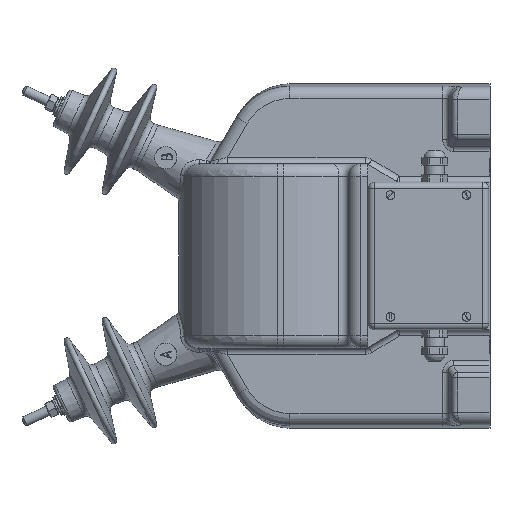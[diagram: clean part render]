
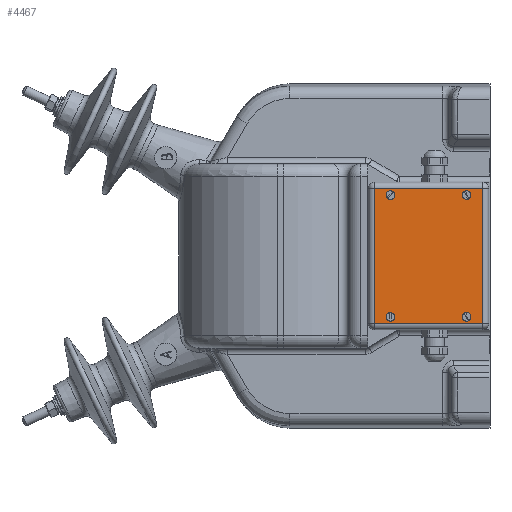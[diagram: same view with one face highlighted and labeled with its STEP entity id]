
A CAD part, left-side view. The second image highlights one B-rep face of the part: STEP entity #4467.
In plain terms, the highlighted planar face has unit normal (-1, 0, 0) as drawn and (0, 0, 1) by its records, which use the part's own axes.
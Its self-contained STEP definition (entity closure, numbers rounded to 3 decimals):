
#4467=ADVANCED_FACE('',(#12348,#12350,#12352,#12354,#12356),#12358,.T.);
#12348=FACE_BOUND('',#12349,.T.);
#12349=EDGE_LOOP('',(#14959,#14960,#14961,#14962));
#12350=FACE_BOUND('',#12351,.T.);
#12351=EDGE_LOOP('',(#14963));
#12352=FACE_BOUND('',#12353,.T.);
#12353=EDGE_LOOP('',(#14964));
#12354=FACE_BOUND('',#12355,.T.);
#12355=EDGE_LOOP('',(#14965));
#12356=FACE_BOUND('',#12357,.T.);
#12357=EDGE_LOOP('',(#14966));
#12358=PLANE('',#12359);
#12359=AXIS2_PLACEMENT_3D('',#12360,#12361,#12362);
#12360=CARTESIAN_POINT('',(0.,0.,7.5));
#12361=DIRECTION('',(0.,0.,1.));
#12362=DIRECTION('',(1.,0.,0.));
#14959=ORIENTED_EDGE('',*,*,#16284,.T.);
#14960=ORIENTED_EDGE('',*,*,#16285,.T.);
#14961=ORIENTED_EDGE('',*,*,#16286,.T.);
#14962=ORIENTED_EDGE('',*,*,#16287,.T.);
#14963=ORIENTED_EDGE('',*,*,#16288,.T.);
#14964=ORIENTED_EDGE('',*,*,#16289,.T.);
#14965=ORIENTED_EDGE('',*,*,#16290,.T.);
#14966=ORIENTED_EDGE('',*,*,#16291,.T.);
#16284=EDGE_CURVE('',#18061,#18062,#18063,.T.);
#16285=EDGE_CURVE('',#18062,#18064,#18065,.T.);
#16286=EDGE_CURVE('',#18064,#18066,#18067,.T.);
#16287=EDGE_CURVE('',#18066,#18061,#18068,.T.);
#16288=EDGE_CURVE('',#18069,#18069,#18070,.T.);
#16289=EDGE_CURVE('',#18071,#18071,#18072,.T.);
#16290=EDGE_CURVE('',#18073,#18073,#18074,.T.);
#16291=EDGE_CURVE('',#18075,#18075,#18076,.T.);
#18061=VERTEX_POINT('',#24068);
#18062=VERTEX_POINT('',#24069);
#18063=LINE('',#24070,#24071);
#18064=VERTEX_POINT('',#24073);
#18065=LINE('',#24074,#24075);
#18066=VERTEX_POINT('',#24077);
#18067=LINE('',#24078,#24079);
#18068=LINE('',#24081,#24082);
#18069=VERTEX_POINT('',#24084);
#18070=CIRCLE('',#24085,2.5);
#18071=VERTEX_POINT('',#24089);
#18072=CIRCLE('',#24090,2.5);
#18073=VERTEX_POINT('',#24094);
#18074=CIRCLE('',#24095,2.5);
#18075=VERTEX_POINT('',#24099);
#18076=CIRCLE('',#24100,2.5);
#24068=CARTESIAN_POINT('',(55.,-44.,7.5));
#24069=CARTESIAN_POINT('',(55.,44.,7.5));
#24070=CARTESIAN_POINT('',(55.,-44.,7.5));
#24071=VECTOR('',#24072,1.);
#24072=DIRECTION('',(0.,1.,0.));
#24073=CARTESIAN_POINT('',(-55.,44.,7.5));
#24074=CARTESIAN_POINT('',(55.,44.,7.5));
#24075=VECTOR('',#24076,1.);
#24076=DIRECTION('',(-1.,0.,0.));
#24077=CARTESIAN_POINT('',(-55.,-44.,7.5));
#24078=CARTESIAN_POINT('',(-55.,44.,7.5));
#24079=VECTOR('',#24080,1.);
#24080=DIRECTION('',(0.,-1.,0.));
#24081=CARTESIAN_POINT('',(-55.,-44.,7.5));
#24082=VECTOR('',#24083,1.);
#24083=DIRECTION('',(1.,0.,0.));
#24084=CARTESIAN_POINT('',(-47.,-31.,7.5));
#24085=AXIS2_PLACEMENT_3D('',#24086,#24087,#24088);
#24086=CARTESIAN_POINT('',(-49.5,-31.,7.5));
#24087=DIRECTION('',(-0.,-0.,-1.));
#24088=DIRECTION('',(1.,0.,0.));
#24089=CARTESIAN_POINT('',(52.,-31.,7.5));
#24090=AXIS2_PLACEMENT_3D('',#24091,#24092,#24093);
#24091=CARTESIAN_POINT('',(49.5,-31.,7.5));
#24092=DIRECTION('',(-0.,-0.,-1.));
#24093=DIRECTION('',(1.,0.,0.));
#24094=CARTESIAN_POINT('',(52.,31.,7.5));
#24095=AXIS2_PLACEMENT_3D('',#24096,#24097,#24098);
#24096=CARTESIAN_POINT('',(49.5,31.,7.5));
#24097=DIRECTION('',(-0.,-0.,-1.));
#24098=DIRECTION('',(1.,0.,0.));
#24099=CARTESIAN_POINT('',(-47.,31.,7.5));
#24100=AXIS2_PLACEMENT_3D('',#24101,#24102,#24103);
#24101=CARTESIAN_POINT('',(-49.5,31.,7.5));
#24102=DIRECTION('',(-0.,-0.,-1.));
#24103=DIRECTION('',(1.,0.,0.));
